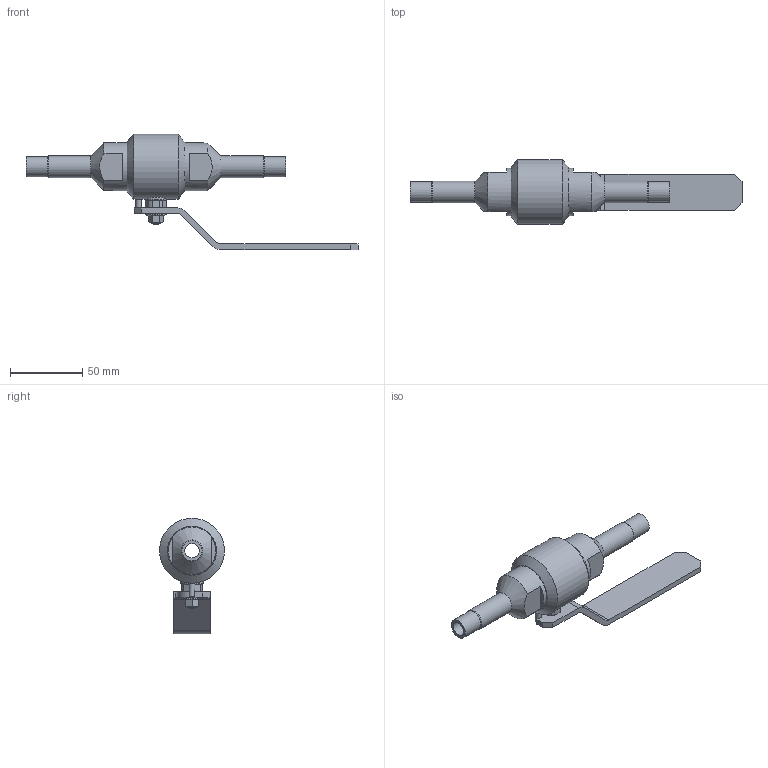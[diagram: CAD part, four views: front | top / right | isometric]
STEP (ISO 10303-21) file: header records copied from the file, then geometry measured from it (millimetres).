
FILE_DESCRIPTION(('STEP AP203'), '1');
FILE_NAME('ZARDP 010.100.40.P.stp', '2013-12-05T08:37:20', ('Øèøêî'), ('Ýíåðïðåä ßðäîñ'), 'ASCON STEP Converter 1.3', 'Kompas 3D', '');
FILE_SCHEMA(('CONFIG_CONTROL_DESIGN','SUPPORT_RESOURCE_SCHEMA'));
Length unit declared in the file: millimetre
Products named in the file (1): 45
Bounding box: 230 x 45 x 80 mm (x, y, z)
Volume: 105187.5 mm3; surface area: 34248.7 mm2
Topology: 1 solids, 3 shells, 149 faces, 356 edges, 218 vertices
Faces by surface type: plane 88, cylinder 36, cone 24, bspline 1
Full cylindrical faces by diameter (mm): 4 x2, 6 x2, 8.673 x1, 9 x1, 10 x3, 10.1 x1, 14 x2, 14.2 x1, 15 x2, 15.8 x1, 16 x3, 25.4 x1, 33 x2, 45 x1
Entity records: 5642 total; most frequent: CARTESIAN_POINT 2046, DIRECTION 757, ORIENTED_EDGE 710, EDGE_CURVE 355, AXIS2_PLACEMENT_3D 282, VERTEX_POINT 218, LINE 193, VECTOR 193
